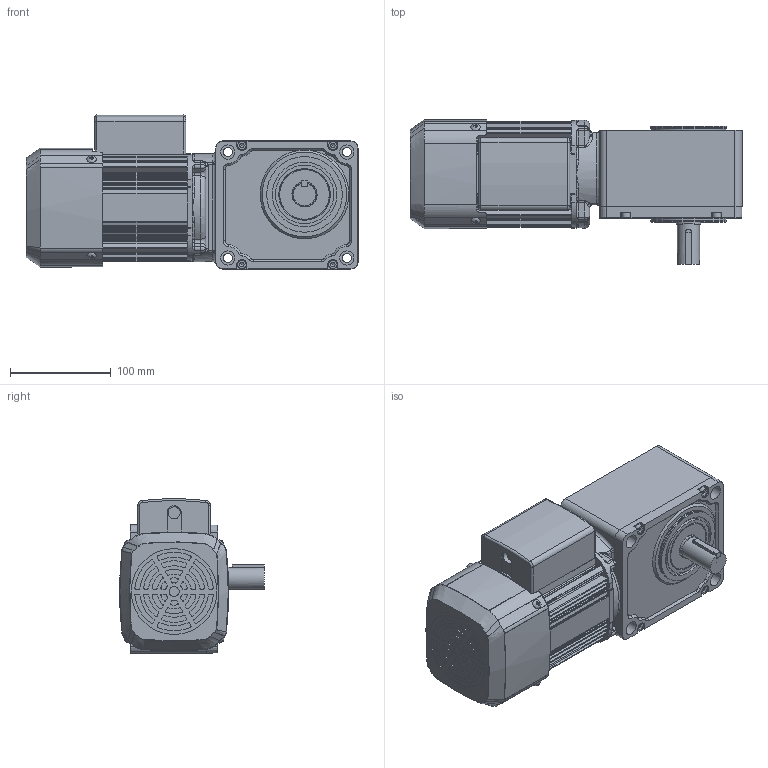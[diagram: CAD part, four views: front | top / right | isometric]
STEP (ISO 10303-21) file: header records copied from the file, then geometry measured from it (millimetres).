
FILE_DESCRIPTION( ( 'Unknown' ), '1' );
FILE_NAME( 'W:/gm/3D-WEB/GM-SHY/完成品/パーツ/完成品/三相/shyfbrr_01_5-240.stp', 'Unknown', ( 'Unknown' ), ( 'Unknown' ), 'PSStep 11.0', 'Unknown', ' ' );
FILE_SCHEMA( ( 'AUTOMOTIVE_DESIGN { 1 0 10303 214 1 1 1 1 }' ) );
Length unit declared in the file: millimetre
Products named in the file (3): P265320_衛偯枆參(0.1,0.2kW 63Fr)
Bounding box: 329 x 143.5 x 152.82 mm (x, y, z)
Volume: 2641299.4 mm3; surface area: 378930.2 mm2
Topology: 3 solids, 23 shells, 1413 faces, 3615 edges, 2286 vertices
Faces by surface type: cylinder 582, plane 519, bspline 112, torus 103, cone 83, sphere 8, offset 6
Full cylindrical faces by diameter (mm): 3.3 x4, 4 x4, 4.134 x8, 4.5 x8, 4.8 x4, 4.917 x1, 5 x4, 5.5 x4, 6 x2, 6.2 x1, 8.5 x4, 9 x4, 10 x1, 12 x2, 14 x8, 15 x1, 16 x1, 22 x1, 24 x1, 24.1 x1, 26 x2, 28 x1, 32 x2, 37 x1, 40 x1, 46 x1, 47.529 x1, 50 x3, 58 x2, 64 x2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
Entity records: 66419 total; most frequent: CARTESIAN_POINT 21739, DIRECTION 7148, ORIENTED_EDGE 6764, EDGE_CURVE 3382, AXIS2_PLACEMENT_3D 2822, VERTEX_POINT 2238, EDGE_LOOP 1647, CIRCLE 1524
